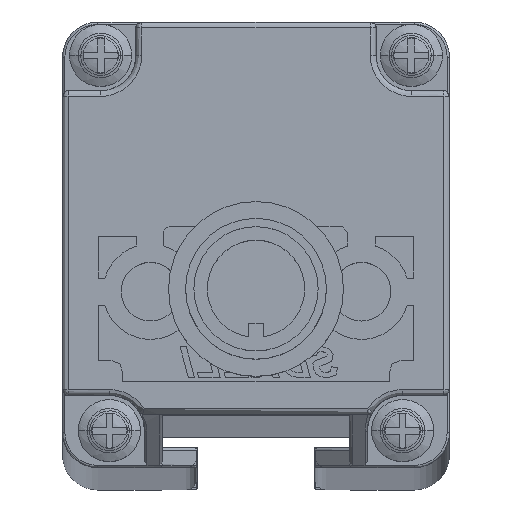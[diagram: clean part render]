
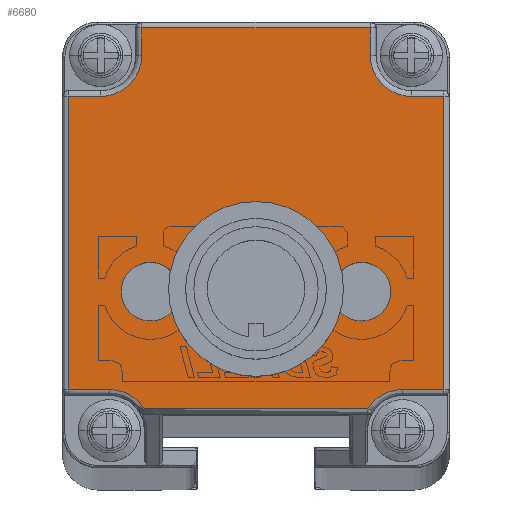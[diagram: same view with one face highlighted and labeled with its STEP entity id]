
A CAD part, top view. The second image highlights one B-rep face of the part: STEP entity #6680.
In plain terms, the highlighted planar face has unit normal (0, 0, 1).
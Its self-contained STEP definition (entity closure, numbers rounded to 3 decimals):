
#2629=CARTESIAN_POINT('',(0.65,-8.054,
965.276));
#2630=DIRECTION('',(0.,0.,1.));
#2631=DIRECTION('',(1.,0.,0.));
#2632=AXIS2_PLACEMENT_3D('',#2629,#2630,#2631);
#2634=CARTESIAN_POINT('',(0.65,-8.054,
965.276));
#2635=DIRECTION('',(0.,0.,1.));
#2636=DIRECTION('',(-1.,0.,0.));
#2637=AXIS2_PLACEMENT_3D('',#2634,#2635,#2636);
#2639=CARTESIAN_POINT('',(9.65,-8.055,965.276));
#2640=DIRECTION('',(0.,0.,1.));
#2641=DIRECTION('',(1.,-0.007,0.));
#2642=AXIS2_PLACEMENT_3D('',#2639,#2640,#2641);
#2644=CARTESIAN_POINT('',(9.65,-8.055,965.276));
#2645=DIRECTION('',(0.,0.,1.));
#2646=DIRECTION('',(-1.,0.007,0.));
#2647=AXIS2_PLACEMENT_3D('',#2644,#2645,#2646);
#2649=CARTESIAN_POINT('',(-8.35,-8.054,
965.276));
#2650=DIRECTION('',(0.,0.,1.));
#2651=DIRECTION('',(1.,0.007,0.));
#2652=AXIS2_PLACEMENT_3D('',#2649,#2650,#2651);
#2654=CARTESIAN_POINT('',(-8.35,-8.054,
965.276));
#2655=DIRECTION('',(0.,0.,1.));
#2656=DIRECTION('',(-1.,-0.007,0.));
#2657=AXIS2_PLACEMENT_3D('',#2654,#2655,#2656);
#2659=CARTESIAN_POINT('',(-11.85,-19.904,
965.276));
#2660=DIRECTION('',(0.,0.,1.));
#2661=DIRECTION('',(0.849,0.528,0.));
#2662=AXIS2_PLACEMENT_3D('',#2659,#2660,#2661);
#2664=CARTESIAN_POINT('',(-12.6,12.094,965.276));
#2665=DIRECTION('',(0.,0.,1.));
#2666=DIRECTION('',(0.,-1.,0.));
#2667=AXIS2_PLACEMENT_3D('',#2664,#2665,#2666);
#2669=CARTESIAN_POINT('',(13.9,12.094,965.276));
#2670=DIRECTION('',(0.,0.,1.));
#2671=DIRECTION('',(-1.,0.,0.));
#2672=AXIS2_PLACEMENT_3D('',#2669,#2670,#2671);
#2674=CARTESIAN_POINT('',(13.15,-19.904,965.276));
#2675=DIRECTION('',(0.,0.,1.));
#2676=DIRECTION('',(0.,1.,0.));
#2677=AXIS2_PLACEMENT_3D('',#2674,#2675,#2676);
#4235=DIRECTION('',(1.,0.,0.));
#4236=VECTOR('',#4235,19.056);
#4237=CARTESIAN_POINT('',(-8.878,-18.056,
965.276));
#4238=LINE('',#4237,#4236);
#4515=DIRECTION('',(1.,0.,0.));
#4516=VECTOR('',#4515,3.5);
#4517=CARTESIAN_POINT('',(13.15,-16.404,965.276));
#4518=LINE('',#4517,#4516);
#5172=DIRECTION('',(0.,1.,0.));
#5173=VECTOR('',#5172,2.35);
#5174=CARTESIAN_POINT('',(10.4,12.094,965.276));
#5175=LINE('',#5174,#5173);
#5195=DIRECTION('',(-1.,0.,0.));
#5196=VECTOR('',#5195,19.5);
#5197=CARTESIAN_POINT('',(10.4,14.444,965.276));
#5198=LINE('',#5197,#5196);
#5219=DIRECTION('',(0.,-1.,0.));
#5220=VECTOR('',#5219,2.35);
#5221=CARTESIAN_POINT('',(-9.1,14.444,965.276));
#5222=LINE('',#5221,#5220);
#5246=DIRECTION('',(-1.,0.,0.));
#5247=VECTOR('',#5246,2.75);
#5248=CARTESIAN_POINT('',(-12.6,8.594,965.276));
#5249=LINE('',#5248,#5247);
#5277=DIRECTION('',(0.,-1.,0.));
#5278=VECTOR('',#5277,24.998);
#5279=CARTESIAN_POINT('',(-15.35,8.594,965.276));
#5280=LINE('',#5279,#5278);
#5301=DIRECTION('',(1.,0.,0.));
#5302=VECTOR('',#5301,3.5);
#5303=CARTESIAN_POINT('',(-15.35,-16.404,
965.276));
#5304=LINE('',#5303,#5302);
#5365=DIRECTION('',(-1.,0.,0.));
#5366=VECTOR('',#5365,2.75);
#5367=CARTESIAN_POINT('',(16.65,8.594,965.276));
#5368=LINE('',#5367,#5366);
#5424=DIRECTION('',(0.,1.,0.));
#5425=VECTOR('',#5424,24.998);
#5426=CARTESIAN_POINT('',(16.65,-16.404,965.276));
#5427=LINE('',#5426,#5425);
#5771=CARTESIAN_POINT('',(12.15,-8.072,965.276));
#5772=VERTEX_POINT('',#5771);
#5773=CARTESIAN_POINT('',(7.15,-8.039,965.276));
#5774=VERTEX_POINT('',#5773);
#5775=CARTESIAN_POINT('',(-8.878,-18.056,
965.276));
#5776=CARTESIAN_POINT('',(-11.85,-16.404,
965.276));
#5777=VERTEX_POINT('',#5775);
#5778=VERTEX_POINT('',#5776);
#5779=CARTESIAN_POINT('',(-15.35,-16.404,
965.276));
#5780=VERTEX_POINT('',#5779);
#5781=CARTESIAN_POINT('',(-15.35,8.594,965.276));
#5782=VERTEX_POINT('',#5781);
#5783=CARTESIAN_POINT('',(-12.6,8.594,965.276));
#5784=VERTEX_POINT('',#5783);
#5785=CARTESIAN_POINT('',(-9.1,12.094,965.276));
#5786=VERTEX_POINT('',#5785);
#5787=CARTESIAN_POINT('',(-9.1,14.444,965.276));
#5788=VERTEX_POINT('',#5787);
#5789=CARTESIAN_POINT('',(10.4,14.444,965.276));
#5790=VERTEX_POINT('',#5789);
#5791=CARTESIAN_POINT('',(10.4,12.094,965.276));
#5792=VERTEX_POINT('',#5791);
#5793=CARTESIAN_POINT('',(13.9,8.594,965.276));
#5794=VERTEX_POINT('',#5793);
#5795=CARTESIAN_POINT('',(16.65,8.594,965.276));
#5796=VERTEX_POINT('',#5795);
#5797=CARTESIAN_POINT('',(16.65,-16.404,965.276));
#5798=VERTEX_POINT('',#5797);
#5799=CARTESIAN_POINT('',(13.15,-16.404,965.276));
#5800=VERTEX_POINT('',#5799);
#5801=CARTESIAN_POINT('',(10.178,-18.056,965.276));
#5802=VERTEX_POINT('',#5801);
#5803=CARTESIAN_POINT('',(-5.85,-8.037,
965.276));
#5804=CARTESIAN_POINT('',(-10.85,-8.07,
965.276));
#5805=VERTEX_POINT('',#5803);
#5806=VERTEX_POINT('',#5804);
#5807=CARTESIAN_POINT('',(3.65,-8.054,965.276));
#5808=CARTESIAN_POINT('',(-2.35,-8.054,
965.276));
#5809=VERTEX_POINT('',#5807);
#5810=VERTEX_POINT('',#5808);
#6629=CARTESIAN_POINT('',(0.65,0.944,
965.276));
#6630=DIRECTION('',(0.,0.,1.));
#6631=DIRECTION('',(1.,0.,0.));
#6632=AXIS2_PLACEMENT_3D('',#6629,#6630,#6631);
#6633=PLANE('',#6632);
#6635=ORIENTED_EDGE('',*,*,#6634,.T.);
#6637=ORIENTED_EDGE('',*,*,#6636,.F.);
#6639=ORIENTED_EDGE('',*,*,#6638,.F.);
#6641=ORIENTED_EDGE('',*,*,#6640,.F.);
#6643=ORIENTED_EDGE('',*,*,#6642,.T.);
#6645=ORIENTED_EDGE('',*,*,#6644,.F.);
#6647=ORIENTED_EDGE('',*,*,#6646,.F.);
#6649=ORIENTED_EDGE('',*,*,#6648,.F.);
#6651=ORIENTED_EDGE('',*,*,#6650,.T.);
#6653=ORIENTED_EDGE('',*,*,#6652,.F.);
#6655=ORIENTED_EDGE('',*,*,#6654,.F.);
#6657=ORIENTED_EDGE('',*,*,#6656,.F.);
#6659=ORIENTED_EDGE('',*,*,#6658,.T.);
#6661=ORIENTED_EDGE('',*,*,#6660,.F.);
#6662=EDGE_LOOP('',(#6635,#6637,#6639,#6641,#6643,#6645,#6647,#6649,#6651,#6653,
#6655,#6657,#6659,#6661));
#6663=FACE_OUTER_BOUND('',#6662,.F.);
#6664=ORIENTED_EDGE('',*,*,#6616,.T.);
#6665=ORIENTED_EDGE('',*,*,#6577,.T.);
#6666=EDGE_LOOP('',(#6664,#6665));
#6667=FACE_BOUND('',#6666,.F.);
#6669=ORIENTED_EDGE('',*,*,#6668,.T.);
#6671=ORIENTED_EDGE('',*,*,#6670,.T.);
#6672=EDGE_LOOP('',(#6669,#6671));
#6673=FACE_BOUND('',#6672,.F.);
#6675=ORIENTED_EDGE('',*,*,#6674,.T.);
#6677=ORIENTED_EDGE('',*,*,#6676,.T.);
#6678=EDGE_LOOP('',(#6675,#6677));
#6679=FACE_BOUND('',#6678,.F.);
#2633=CIRCLE('',#2632,3.);
#2638=CIRCLE('',#2637,3.);
#2643=CIRCLE('',#2642,2.5);
#2648=CIRCLE('',#2647,2.5);
#2653=CIRCLE('',#2652,2.5);
#2658=CIRCLE('',#2657,2.5);
#2663=CIRCLE('',#2662,3.5);
#2668=CIRCLE('',#2667,3.5);
#2673=CIRCLE('',#2672,3.5);
#2678=CIRCLE('',#2677,3.5);
#6577=EDGE_CURVE('',#5774,#5772,#2648,.T.);
#6616=EDGE_CURVE('',#5772,#5774,#2643,.T.);
#6634=EDGE_CURVE('',#5777,#5778,#2663,.T.);
#6636=EDGE_CURVE('',#5780,#5778,#5304,.T.);
#6638=EDGE_CURVE('',#5782,#5780,#5280,.T.);
#6640=EDGE_CURVE('',#5784,#5782,#5249,.T.);
#6642=EDGE_CURVE('',#5784,#5786,#2668,.T.);
#6644=EDGE_CURVE('',#5788,#5786,#5222,.T.);
#6646=EDGE_CURVE('',#5790,#5788,#5198,.T.);
#6648=EDGE_CURVE('',#5792,#5790,#5175,.T.);
#6650=EDGE_CURVE('',#5792,#5794,#2673,.T.);
#6652=EDGE_CURVE('',#5796,#5794,#5368,.T.);
#6654=EDGE_CURVE('',#5798,#5796,#5427,.T.);
#6656=EDGE_CURVE('',#5800,#5798,#4518,.T.);
#6658=EDGE_CURVE('',#5800,#5802,#2678,.T.);
#6660=EDGE_CURVE('',#5777,#5802,#4238,.T.);
#6668=EDGE_CURVE('',#5805,#5806,#2653,.T.);
#6670=EDGE_CURVE('',#5806,#5805,#2658,.T.);
#6674=EDGE_CURVE('',#5809,#5810,#2633,.T.);
#6676=EDGE_CURVE('',#5810,#5809,#2638,.T.);
#6680=ADVANCED_FACE('',(#6663,#6667,#6673,#6679),#6633,.T.);
